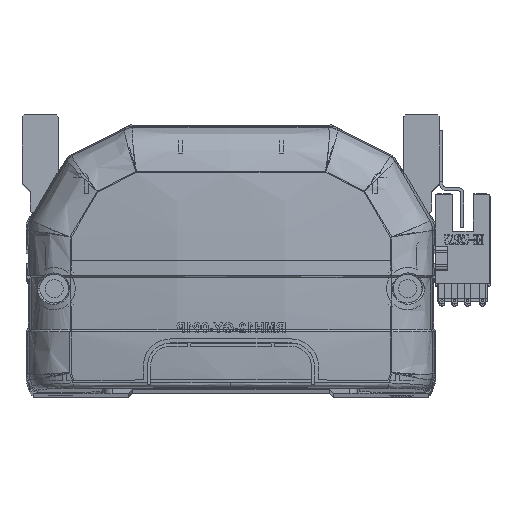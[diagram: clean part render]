
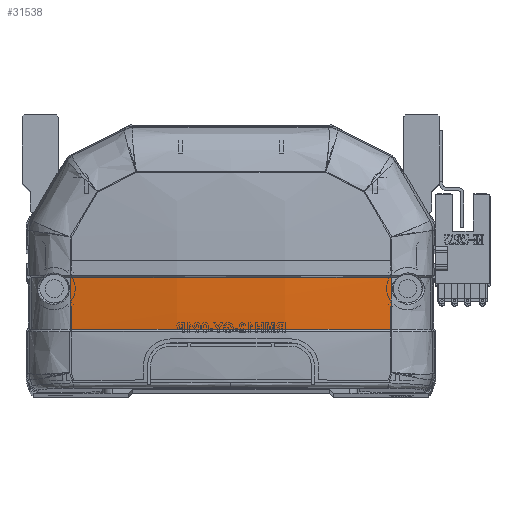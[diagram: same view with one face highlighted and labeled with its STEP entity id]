
A CAD part, top view. The second image highlights one B-rep face of the part: STEP entity #31538.
In plain terms, the highlighted free-form (B-spline) face has degree [3, 3] with [4, 4] control points.
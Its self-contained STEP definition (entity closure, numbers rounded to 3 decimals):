
#949 = EDGE_CURVE ( 'NONE', #53074, #31932, #1952, .T. ) ;
#1457 = EDGE_CURVE ( 'NONE', #40735, #31932, #55432, .T. ) ;
#1952 = B_SPLINE_CURVE_WITH_KNOTS ( 'NONE', 3,
 ( #50681, #36954, #54837, #18875, #55394, #5513 ),
 .UNSPECIFIED., .F., .F.,
 ( 4, 2, 4 ),
 ( 0., 0.5, 1. ),
 .UNSPECIFIED. ) ;
#2939 = CARTESIAN_POINT ( 'NONE',  ( 13.598, 28.769, -10.535 ) ) ;
#3534 = CARTESIAN_POINT ( 'NONE',  ( 13.598, 15.499, -10.032 ) ) ;
#5253 = CARTESIAN_POINT ( 'NONE',  ( 39.973, 20.12, -6.142 ) ) ;
#5513 = CARTESIAN_POINT ( 'NONE',  ( 39.963, 28.706, -6.372 ) ) ;
#7035 = EDGE_LOOP ( 'NONE', ( #37610, #16240, #55391, #24892 ) ) ;
#7404 = CARTESIAN_POINT ( 'NONE',  ( -40.461, 28.832, -6.296 ) ) ;
#7525 =( BOUNDED_SURFACE ( )  B_SPLINE_SURFACE ( 3, 3, ( 
 ( #30212, #21609, #53041, #26306 ),
 ( #3534, #29812, #44183, #2939 ),
 ( #52620, #21408, #35143, #7601 ),
 ( #8180, #39668, #17286, #7404 ) ),
 .UNSPECIFIED., .F., .F., .F. ) 
 B_SPLINE_SURFACE_WITH_KNOTS ( ( 4, 4 ),
 ( 4, 4 ),
 ( 0., 1. ),
 ( 0., 1. ),
 .UNSPECIFIED. ) 
 GEOMETRIC_REPRESENTATION_ITEM ( )  RATIONAL_B_SPLINE_SURFACE ( (
 ( 1., 1., 1., 1.),
 ( 0.992, 0.992, 0.992, 0.992),
 ( 0.992, 0.992, 0.992, 0.992),
 ( 1., 1., 1., 1.) ) ) 
 REPRESENTATION_ITEM ( '' )  SURFACE ( )  );
#7601 = CARTESIAN_POINT ( 'NONE',  ( -13.598, 28.769, -10.535 ) ) ;
#8180 = CARTESIAN_POINT ( 'NONE',  ( -40.461, 15.757, -5.8 ) ) ;
#9180 = CARTESIAN_POINT ( 'NONE',  ( 39.985, 15.83, -5.879 ) ) ;
#11924 = CARTESIAN_POINT ( 'NONE',  ( -39.985, 15.83, -5.879 ) ) ;
#13145 = CARTESIAN_POINT ( 'NONE',  ( -39.963, 28.706, -6.372 ) ) ;
#16240 = ORIENTED_EDGE ( 'NONE', *, *, #949, .F. ) ;
#17286 = CARTESIAN_POINT ( 'NONE',  ( -40.461, 24.47, -6.231 ) ) ;
#18549 = VERTEX_POINT ( 'NONE', #11924 ) ;
#18805 = CARTESIAN_POINT ( 'NONE',  ( 39.963, 28.706, -6.372 ) ) ;
#18875 = CARTESIAN_POINT ( 'NONE',  ( 13.375, 28.707, -9.468 ) ) ;
#21408 = CARTESIAN_POINT ( 'NONE',  ( -13.598, 19.918, -10.302 ) ) ;
#21609 = CARTESIAN_POINT ( 'NONE',  ( 40.461, 20.111, -6.066 ) ) ;
#24207 = FACE_OUTER_BOUND ( 'NONE', #7035, .T. ) ;
#24892 = ORIENTED_EDGE ( 'NONE', *, *, #28864, .F. ) ;
#26306 = CARTESIAN_POINT ( 'NONE',  ( 40.461, 28.832, -6.296 ) ) ;
#26658 = CARTESIAN_POINT ( 'NONE',  ( -39.973, 20.118, -6.142 ) ) ;
#28237 = EDGE_CURVE ( 'NONE', #53074, #18549, #46192, .T. ) ;
#28864 = EDGE_CURVE ( 'NONE', #40735, #18549, #30034, .T. ) ;
#29812 = CARTESIAN_POINT ( 'NONE',  ( 13.598, 19.918, -10.302 ) ) ;
#30034 = B_SPLINE_CURVE_WITH_KNOTS ( 'NONE', 3,
 ( #34518, #43350, #30550, #34897, #34708, #39627, #52993, #47645, #43552, #39052 ),
 .UNSPECIFIED., .F., .F.,
 ( 4, 2, 2, 2, 4 ),
 ( 0., 0.04, 0.06, 0.07, 0.08 ),
 .UNSPECIFIED. ) ;
#30212 = CARTESIAN_POINT ( 'NONE',  ( 40.461, 15.757, -5.8 ) ) ;
#30550 = CARTESIAN_POINT ( 'NONE',  ( 13.38, 15.83, -8.984 ) ) ;
#31526 = CARTESIAN_POINT ( 'NONE',  ( 39.966, 24.413, -6.306 ) ) ;
#31538 = ADVANCED_FACE ( 'NONE', ( #24207 ), #7525, .F. ) ;
#31932 = VERTEX_POINT ( 'NONE', #58129 ) ;
#34518 = CARTESIAN_POINT ( 'NONE',  ( 39.985, 15.83, -5.879 ) ) ;
#34708 = CARTESIAN_POINT ( 'NONE',  ( -13.384, 15.83, -8.724 ) ) ;
#34897 = CARTESIAN_POINT ( 'NONE',  ( -6.692, 15.83, -8.984 ) ) ;
#35143 = CARTESIAN_POINT ( 'NONE',  ( -13.598, 24.342, -10.47 ) ) ;
#36954 = CARTESIAN_POINT ( 'NONE',  ( -26.748, 28.706, -8.432 ) ) ;
#37610 = ORIENTED_EDGE ( 'NONE', *, *, #1457, .T. ) ;
#39052 = CARTESIAN_POINT ( 'NONE',  ( -39.985, 15.83, -5.879 ) ) ;
#39627 = CARTESIAN_POINT ( 'NONE',  ( -23.389, 15.83, -7.947 ) ) ;
#39668 = CARTESIAN_POINT ( 'NONE',  ( -40.461, 20.111, -6.066 ) ) ;
#40735 = VERTEX_POINT ( 'NONE', #9180 ) ;
#43350 = CARTESIAN_POINT ( 'NONE',  ( 26.761, 15.83, -7.945 ) ) ;
#43552 = CARTESIAN_POINT ( 'NONE',  ( -36.679, 15.83, -6.395 ) ) ;
#44183 = CARTESIAN_POINT ( 'NONE',  ( 13.598, 24.342, -10.47 ) ) ;
#46192 = B_SPLINE_CURVE_WITH_KNOTS ( 'NONE', 3,
 ( #13145, #53602, #26658, #58123 ),
 .UNSPECIFIED., .F., .F.,
 ( 4, 4 ),
 ( 0., 1. ),
 .UNSPECIFIED. ) ;
#47645 = CARTESIAN_POINT ( 'NONE',  ( -33.365, 15.83, -6.848 ) ) ;
#50681 = CARTESIAN_POINT ( 'NONE',  ( -39.963, 28.706, -6.372 ) ) ;
#51756 = CARTESIAN_POINT ( 'NONE',  ( -39.963, 28.706, -6.372 ) ) ;
#52620 = CARTESIAN_POINT ( 'NONE',  ( -13.598, 15.499, -10.032 ) ) ;
#52993 = CARTESIAN_POINT ( 'NONE',  ( -26.721, 15.83, -7.624 ) ) ;
#53041 = CARTESIAN_POINT ( 'NONE',  ( 40.461, 24.47, -6.231 ) ) ;
#53074 = VERTEX_POINT ( 'NONE', #51756 ) ;
#53602 = CARTESIAN_POINT ( 'NONE',  ( -39.966, 24.412, -6.306 ) ) ;
#54837 = CARTESIAN_POINT ( 'NONE',  ( -13.373, 28.707, -9.468 ) ) ;
#54944 = CARTESIAN_POINT ( 'NONE',  ( 39.985, 15.83, -5.879 ) ) ;
#55391 = ORIENTED_EDGE ( 'NONE', *, *, #28237, .T. ) ;
#55394 = CARTESIAN_POINT ( 'NONE',  ( 26.749, 28.706, -8.432 ) ) ;
#55432 = B_SPLINE_CURVE_WITH_KNOTS ( 'NONE', 3,
 ( #54944, #5253, #31526, #18805 ),
 .UNSPECIFIED., .F., .F.,
 ( 4, 4 ),
 ( 0., 1. ),
 .UNSPECIFIED. ) ;
#58123 = CARTESIAN_POINT ( 'NONE',  ( -39.985, 15.83, -5.879 ) ) ;
#58129 = CARTESIAN_POINT ( 'NONE',  ( 39.963, 28.706, -6.372 ) ) ;
